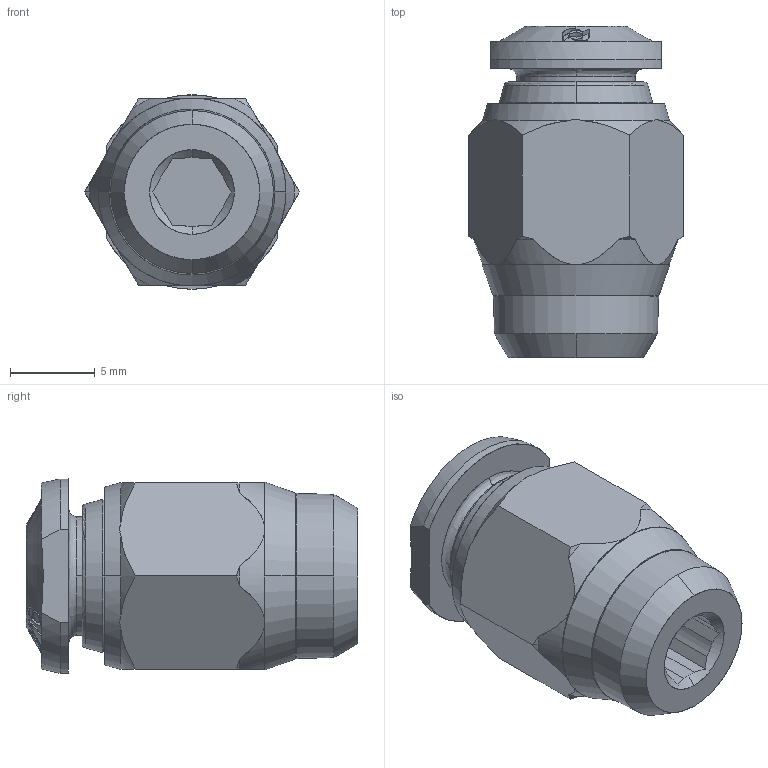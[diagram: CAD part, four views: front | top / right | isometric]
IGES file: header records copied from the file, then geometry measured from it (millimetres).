
Start section: SolidWorks IGES file using analytic representation for surfaces
Global section: file name: K:\Disegni Esecutivi\Serie 50000\ASSIEMI_50000\50000\ASSIEMI_.IGES_50000\5000000011A.IGS; native system: SolidWorks 2008; preprocessor: SolidWorks 2008; author: cad02; date: 081015.115454; units: millimetre
Bounding box: 12.7 x 19.6 x 11.5 mm (x, y, z)
Surface area: 1295.7 mm2 (no closed solid volume)
Topology: 0 solids, 0 shells, 262 faces, 2867 edges, 2863 vertices
Faces by surface type: bspline 170, revolution 92
